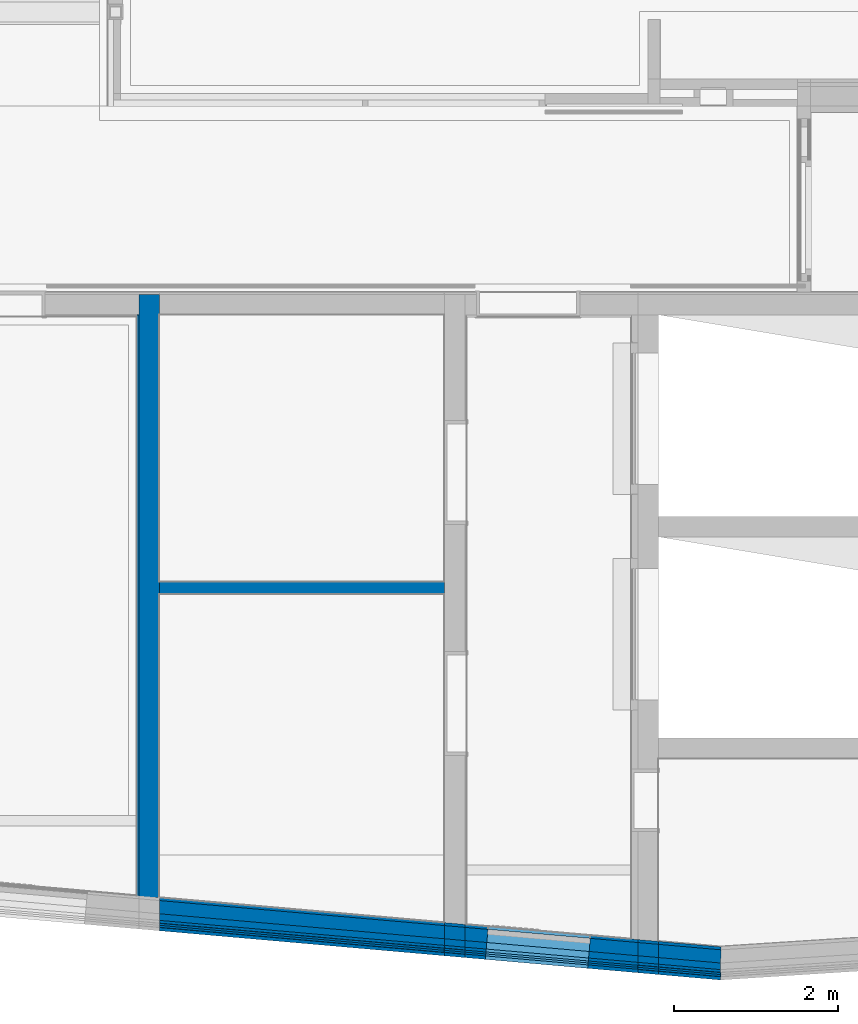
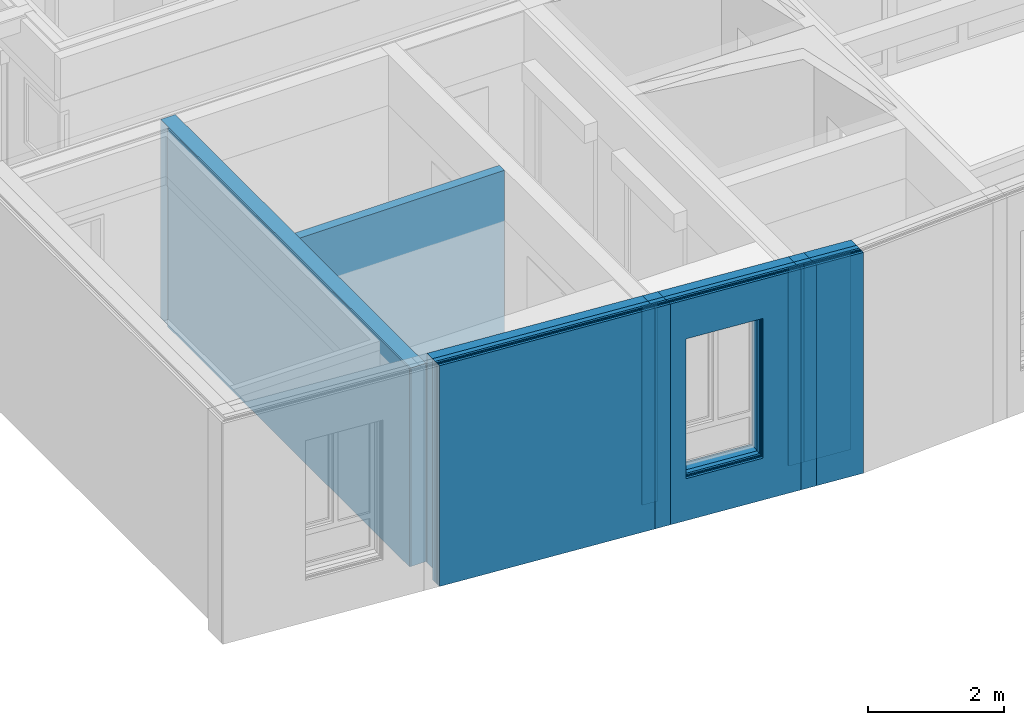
# One storey, part 20 of 222: 38 walls, 13 openings.
"""IFC4 building model written with IfcOpenShell, lengths in metres."""

from ifc_helpers import new_model, entity, si_unit, converted_unit, derived_unit, frame, frame_2d, origin, origin_with_axes, place, context, subcontext, project, spatial, polyline, rectangle, outline, extrude, material, element, save


model = new_model("IFC4")

# Units and contexts
model_context = context("Model", 3, precision=1e-05, world=origin())
body_context = subcontext(model_context, "Body", "Model", "MODEL_VIEW")
ifc_project = project(units=[si_unit("LENGTHUNIT", "METRE"), si_unit("AREAUNIT", "SQUARE_METRE"), si_unit("VOLUMEUNIT", "CUBIC_METRE"), si_unit("MASSUNIT", "GRAM", prefix="KILO"), converted_unit("PLANEANGLEUNIT", "DEGREE", entity("IfcPlaneAngleMeasure", 0.0174532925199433), si_unit("PLANEANGLEUNIT", "RADIAN"), dimensions=[0, 0, 0, 0, 0, 0, 0]), derived_unit("THERMALTRANSMITTANCEUNIT", [(si_unit("POWERUNIT", "WATT"), 1), (si_unit("THERMODYNAMICTEMPERATUREUNIT", "KELVIN"), -1), (si_unit("LENGTHUNIT", "METRE"), -2)]), derived_unit("VOLUMETRICFLOWRATEUNIT", [(si_unit("LENGTHUNIT", "METRE"), 3), (converted_unit("TIMEUNIT", "hour", entity("IfcTimeMeasure", 3600.0), si_unit("TIMEUNIT", "SECOND"), dimensions=[0, 0, 1, 0, 0, 0, 0]), -1), (si_unit("LENGTHUNIT", "METRE"), -1)])], contexts=[model_context])

# Site, building, storey
site_placement = place(None, origin())
site = spatial("IfcSite", under=ifc_project, at=site_placement, Name="Psychiatrie Neubau Wunstorf", CompositionType="ELEMENT")
building_placement = place(site_placement, origin())
building = spatial("IfcBuilding", under=site, at=building_placement, Name="Neubau H2 Stationsgebäude", CompositionType="ELEMENT")
storey_placement = place(building_placement, frame((0.0, 0.0, 3.6)))
storey = spatial("IfcBuildingStorey", under=building, at=storey_placement, Name="H2 Ebene +1", CompositionType="ELEMENT", Elevation=3.6)

# Wall, openings
ifc_material_1 = material(Name="WA-LB")
wall_1_placement = place(storey_placement, frame((47.0200048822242, -7.32418715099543, 0.0), z_axis=(0.0, 0.0, 1.0), x_axis=(-0.996173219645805, 0.0874008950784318, 0.0)))
wall_1 = element("IfcWall", 1, at=wall_1_placement, inside=storey, material=ifc_material_1, context=body_context, shape_type="SweptSolid", body=[
    extrude(outline(polyline([(-2.09276433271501, -0.2198892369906), (0.0192923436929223, -0.2198892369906), (0.016133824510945, -0.183889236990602), (-2.09592285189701, -0.183889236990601), (-2.09276433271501, -0.2198892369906)])), frame((2.09276433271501, 0.2198892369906, 0.0), z_axis=(0.0, 0.0, 1.0), x_axis=(1.0, 0.0, 0.0)), (0.0, 0.0, 1.0), 3.55),
])
opening_1_placement = place(wall_1_placement, frame((1.82678624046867, 0.195998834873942, 0.55), z_axis=(1.5631940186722e-14, -1.0, 0.0), x_axis=(0.0, 0.0, 1.0)))
element("IfcOpeningElement", 2, at=opening_1_placement, cuts=wall_1, Name="Fensteröffnung", ObjectType="Opening", context=body_context, shape_type="SweptSolid", body=[
    extrude(outline(polyline([(2.5, 1.25), (2.5, 0.0), (0.0, 0.0), (0.0, 1.25), (2.5, 1.25)])), origin_with_axes(), (0.0, 0.0, 1.0), 0.160000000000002),
])
opening_2_placement = place(wall_1_placement, frame((1.82678624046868, 0.0359988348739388, 0.55), z_axis=(8.21071605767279e-14, -1.0, 0.0), x_axis=(0.0, 0.0, 1.0)))
element("IfcOpeningElement", 3, at=opening_2_placement, cuts=wall_1, Name="Fensteröffnung", ObjectType="Opening", context=body_context, shape_type="SweptSolid", body=[
    extrude(outline(polyline([(2.5, 1.25), (2.5, 0.0), (0.0, 0.0), (0.0, 1.25), (2.5, 1.25)])), origin_with_axes(), (0.0, 0.0, 1.0), 0.0359999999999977),
])

ifc_material_2 = material(Name="WA-HD")
wall_2_placement = place(storey_placement, frame((47.0200048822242, -7.3603254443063, 0.0), z_axis=(0.0, 0.0, 1.0), x_axis=(-0.996173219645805, 0.087400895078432, 0.0)))
wall_2 = element("IfcWall", 4, at=wall_2_placement, inside=storey, material=ifc_material_2, context=body_context, shape_type="SweptSolid", body=[
    extrude(outline(polyline([(-2.08188498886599, -0.343889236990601), (0.0301716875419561, -0.343889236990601), (0.0161338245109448, -0.183889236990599), (-2.09592285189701, -0.183889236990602), (-2.08188498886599, -0.343889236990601)])), frame((2.08188498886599, 0.343889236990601, 0.0), z_axis=(0.0, 0.0, 1.0), x_axis=(1.0, 0.0, 0.0)), (0.0, 0.0, 1.0), 3.75),
])
opening_3_placement = place(wall_2_placement, frame((1.82994475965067, 0.159998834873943, 0.55), z_axis=(1.5631940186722e-14, -1.0, 0.0), x_axis=(0.0, 0.0, 1.0)))
element("IfcOpeningElement", 5, at=opening_3_placement, cuts=wall_2, Name="Fensteröffnung", ObjectType="Opening", context=body_context, shape_type="SweptSolid", body=[
    extrude(outline(polyline([(2.5, 1.25), (2.5, 0.0), (0.0, 0.0), (0.0, 1.25), (2.5, 1.25)])), origin_with_axes(), (0.0, 0.0, 1.0), 0.160000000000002),
])
opening_4_placement = place(wall_2_placement, frame((1.82994475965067, 0.239998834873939, 0.55), z_axis=(-3.41060513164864e-14, -1.0, 0.0), x_axis=(0.0, 0.0, 1.0)))
element("IfcOpeningElement", 6, at=opening_4_placement, cuts=wall_2, Name="Fensteröffnung", ObjectType="Opening", context=body_context, shape_type="SweptSolid", body=[
    extrude(outline(polyline([(2.5, 1.24999999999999), (2.5, 0.0), (0.0, 0.0), (0.0, 1.24999999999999), (2.5, 1.24999999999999)])), origin_with_axes(), (0.0, 0.0, 1.0), 0.0799999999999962),
])

ifc_material_3 = material(Name="WA-DL")
wall_3_placement = place(storey_placement, frame((47.0200048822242, -7.52094008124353, -0.2), z_axis=(0.0, 0.0, 1.0), x_axis=(-0.996173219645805, 0.0874008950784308, 0.0)))
wall_3 = element("IfcWall", 7, at=wall_3_placement, inside=storey, material=ifc_material_3, context=body_context, shape_type="SweptSolid", body=[
    extrude(outline(polyline([(-2.0889039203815, -0.263889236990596), (0.0231527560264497, -0.263889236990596), (0.0161338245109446, -0.1838892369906), (-2.09592285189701, -0.183889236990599), (-2.0889039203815, -0.263889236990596)])), frame((2.0889039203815, 0.263889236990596, 0.0), z_axis=(0.0, 0.0, 1.0), x_axis=(1.0, 0.0, 0.0)), (0.0, 0.0, 1.0), 3.95),
])
opening_5_placement = place(wall_3_placement, frame((1.84398262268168, 0.115998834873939, 0.75), z_axis=(9.47390314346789e-14, -1.0, 0.0), x_axis=(0.0, 0.0, 1.0)))
element("IfcOpeningElement", 8, at=opening_5_placement, cuts=wall_3, Name="Fensteröffnung", ObjectType="Opening", context=body_context, shape_type="SweptSolid", body=[
    extrude(outline(polyline([(2.5, 1.25), (2.5, 0.0), (0.0, 0.0), (0.0, 1.25), (2.5, 1.25)])), origin_with_axes(), (0.0, 0.0, 1.0), 0.0360000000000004),
])
opening_6_placement = place(wall_3_placement, frame((1.84398262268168, 0.0799988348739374, 0.75), z_axis=(-3.6948222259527e-14, -1.0, 0.0), x_axis=(0.0, 0.0, 1.0)))
element("IfcOpeningElement", 9, at=opening_6_placement, cuts=wall_3, Name="Fensteröffnung", ObjectType="Opening", context=body_context, shape_type="SweptSolid", body=[
    extrude(outline(polyline([(2.5, 1.24999999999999), (2.5, 0.0), (0.0, 0.0), (0.0, 1.24999999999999), (2.5, 1.24999999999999)])), origin_with_axes(), (0.0, 0.0, 1.0), 0.0799999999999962),
])

ifc_material_4 = material(Name="WA-LB")
wall_4_placement = place(storey_placement, frame((47.0200048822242, -7.60124739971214, -0.2), z_axis=(0.0, 0.0, 1.0), x_axis=(-0.996173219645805, 0.0874008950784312, 0.0)))
wall_4 = element("IfcWall", 10, at=wall_4_placement, inside=storey, material=ifc_material_4, context=body_context, shape_type="SweptSolid", body=[
    extrude(outline(polyline([(-2.09276433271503, -0.219889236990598), (0.019292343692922, -0.219889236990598), (0.0161338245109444, -0.183889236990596), (-2.09592285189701, -0.1838892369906), (-2.09276433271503, -0.219889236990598)])), frame((2.09276433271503, 0.219889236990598, 0.0), z_axis=(0.0, 0.0, 1.0), x_axis=(1.0, 0.0, 0.0)), (0.0, 0.0, 1.0), 3.95),
])
opening_7_placement = place(wall_4_placement, frame((1.85100155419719, 0.0599988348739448, 0.75), z_axis=(9.4739031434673e-14, -1.0, 0.0), x_axis=(0.0, 0.0, 1.0)))
element("IfcOpeningElement", 11, at=opening_7_placement, cuts=wall_4, Name="Fensteröffnung", ObjectType="Opening", context=body_context, shape_type="SweptSolid", body=[
    extrude(outline(polyline([(2.5, 1.24999999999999), (2.5, 0.0), (0.0, 0.0), (0.0, 1.24999999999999), (2.5, 1.24999999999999)])), origin_with_axes(), (0.0, 0.0, 1.0), 0.0240000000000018),
])
opening_8_placement = place(wall_4_placement, frame((1.85100155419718, 0.0359988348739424, 0.75), z_axis=(8.84230960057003e-14, -1.0, 0.0), x_axis=(0.0, 0.0, 1.0)))
element("IfcOpeningElement", 12, at=opening_8_placement, cuts=wall_4, Name="Fensteröffnung", ObjectType="Opening", context=body_context, shape_type="SweptSolid", body=[
    extrude(outline(polyline([(2.5, 1.25), (2.5, 0.0), (0.0, 0.0), (0.0, 1.25), (2.5, 1.25)])), origin_with_axes(), (0.0, 0.0, 1.0), 0.0360000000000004),
])

ifc_material_5 = material(Name="WA-KL")
wall_5_placement = place(storey_placement, frame((47.0200048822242, -7.63738569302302, -0.2), z_axis=(0.0, 0.0, 1.0), x_axis=(-0.996173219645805, 0.0874008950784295, 0.0)))
wall_5 = element("IfcWall", 13, at=wall_5_placement, inside=storey, material=ifc_material_5, context=body_context, shape_type="SweptSolid", body=[
    extrude(outline(polyline([(-2.09381717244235, -0.207889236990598), (0.0182395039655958, -0.207889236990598), (0.0161338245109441, -0.183889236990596), (-2.09592285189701, -0.183889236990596), (-2.09381717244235, -0.207889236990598)])), frame((2.09381717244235, 0.207889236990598, 0.0), z_axis=(0.0, 0.0, 1.0), x_axis=(1.0, 0.0, 0.0)), (0.0, 0.0, 1.0), 3.95),
])
opening_9_placement = place(wall_5_placement, frame((1.85416007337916, 0.0479988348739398, 0.75), z_axis=(7.57912251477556e-14, -1.0, 0.0), x_axis=(0.0, 0.0, 1.0)))
element("IfcOpeningElement", 14, at=opening_9_placement, cuts=wall_5, Name="Fensteröffnung", ObjectType="Opening", context=body_context, shape_type="SweptSolid", body=[
    extrude(outline(polyline([(2.5, 1.24999999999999), (2.5, 0.0), (0.0, 0.0), (0.0, 1.24999999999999), (2.5, 1.24999999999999)])), origin_with_axes(), (0.0, 0.0, 1.0), 0.0239999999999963),
])
opening_10_placement = place(wall_5_placement, frame((1.85416007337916, 0.0239988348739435, 0.75), z_axis=(9.47390314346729e-14, -1.0, 0.0), x_axis=(0.0, 0.0, 1.0)))
element("IfcOpeningElement", 15, at=opening_10_placement, cuts=wall_5, Name="Fensteröffnung", ObjectType="Opening", context=body_context, shape_type="SweptSolid", body=[
    extrude(outline(polyline([(2.5, 1.24999999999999), (2.5, 0.0), (0.0, 0.0), (0.0, 1.24999999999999), (2.5, 1.24999999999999)])), origin_with_axes(), (0.0, 0.0, 1.0), 0.0240000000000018),
])

ifc_material_6 = material(Name="WA-TL")
wall_6_placement = place(storey_placement, frame((47.0200048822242, -7.6614778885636, -0.2), z_axis=(0.0, 0.0, 1.0), x_axis=(-0.996173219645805, 0.0874008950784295, 0.0)))
wall_6 = element("IfcWall", 16, at=wall_6_placement, inside=storey, material=ifc_material_6, context=body_context, shape_type="SweptSolid", body=[
    extrude(outline(polyline([(-2.09381717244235, -0.207889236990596), (0.0182395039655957, -0.207889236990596), (0.0161338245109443, -0.183889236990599), (-2.09592285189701, -0.183889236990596), (-2.09381717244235, -0.207889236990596)])), frame((2.09381717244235, 0.207889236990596, 0.0), z_axis=(0.0, 0.0, 1.0), x_axis=(1.0, 0.0, 0.0)), (0.0, 0.0, 1.0), 3.95),
])
opening_11_placement = place(wall_6_placement, frame((1.85626575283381, 0.0659988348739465, 0.75), z_axis=(1.62409768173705e-14, -1.0, 0.0), x_axis=(0.0, 0.0, 1.0)))
element("IfcOpeningElement", 17, at=opening_11_placement, cuts=wall_6, Name="Fensteröffnung", ObjectType="Opening", context=body_context, shape_type="SweptSolid", body=[
    extrude(outline(polyline([(2.5, 1.24999999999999), (2.5, 0.0), (0.0, 0.0), (0.0, 1.24999999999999), (2.5, 1.24999999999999)])), origin_with_axes(), (0.0, 0.0, 1.0), 0.0420000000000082),
])
opening_12_placement = place(wall_6_placement, frame((1.85626575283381, 0.0239988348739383, 0.75), z_axis=(8.52651282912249e-14, -1.0, 0.0), x_axis=(0.0, 0.0, 1.0)))
element("IfcOpeningElement", 18, at=opening_12_placement, cuts=wall_6, Name="Fensteröffnung", ObjectType="Opening", context=body_context, shape_type="SweptSolid", body=[
    extrude(outline(polyline([(2.5, 1.24999999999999), (2.5, 0.0), (0.0, 0.0), (0.0, 1.24999999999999), (2.5, 1.24999999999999)])), origin_with_axes(), (0.0, 0.0, 1.0), 0.0239999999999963),
])

# Wall, opening
ifc_material_7 = material(Name="WA-HS")
wall_7_placement = place(storey_placement, frame((47.0200048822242, -7.68557008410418, -0.2), z_axis=(0.0, 0.0, 1.0), x_axis=(-0.996173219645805, 0.0874008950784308, 0.0)))
wall_7 = element("IfcWall", 19, at=wall_7_placement, inside=storey, material=ifc_material_7, context=body_context, shape_type="SweptSolid", body=[
    extrude(outline(polyline([(-2.09223791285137, -0.225889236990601), (0.019818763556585, -0.225889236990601), (0.016133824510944, -0.183889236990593), (-2.09592285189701, -0.183889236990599), (-2.09223791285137, -0.225889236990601)])), frame((2.09223791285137, 0.225889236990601, 0.0), z_axis=(0.0, 0.0, 1.0), x_axis=(1.0, 0.0, 0.0)), (0.0, 0.0, 1.0), 3.95),
])
opening_13_placement = place(wall_7_placement, frame((1.85837143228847, 0.0419988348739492, 0.75), z_axis=(2.16546357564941e-14, -1.0, 0.0), x_axis=(0.0, 0.0, 1.0)))
element("IfcOpeningElement", 20, at=opening_13_placement, cuts=wall_7, Name="Fensteröffnung", ObjectType="Opening", context=body_context, shape_type="SweptSolid", body=[
    extrude(outline(polyline([(2.5, 1.24999999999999), (2.5, 0.0), (0.0, 0.0), (0.0, 1.24999999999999), (2.5, 1.24999999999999)])), origin_with_axes(), (0.0, 0.0, 1.0), 0.0420000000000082),
])

# Walls
ifc_material_8 = material(Name="WA-LB")
wall_8_placement = place(storey_placement, frame((48.0306428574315, -7.41285713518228, 0.0), z_axis=(0.0, 0.0, 1.0), x_axis=(-0.996173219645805, 0.0874008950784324, 0.0)))
element("IfcWall", 21, at=wall_8_placement, inside=storey, material=ifc_material_8, context=body_context, shape_type="SweptSolid", body=[
    extrude(outline(polyline([(-0.754571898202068, -0.102443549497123), (0.00898805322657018, -0.102443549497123), (0.0058295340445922, -0.066443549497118), (-0.757306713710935, -0.0664435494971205), (-0.754571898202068, -0.102443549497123)])), frame((0.754571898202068, 0.102443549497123, 0.0), z_axis=(0.0, 0.0, 1.0), x_axis=(1.0, 0.0, 0.0)), (0.0, 0.0, 1.0), 3.55),
])
ifc_material_9 = material(Name="WA-HD")
wall_9_placement = place(storey_placement, frame((48.0302207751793, -7.44895839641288, 0.0), z_axis=(0.0, 0.0, 1.0), x_axis=(-0.996173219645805, 0.0874008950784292, 0.0)))
element("IfcWall", 22, at=wall_9_placement, inside=storey, material=ifc_material_9, context=body_context, shape_type="SweptSolid", body=[
    extrude(outline(polyline([(-0.743283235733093, -0.226279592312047), (0.019853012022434, -0.226279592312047), (0.00581514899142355, -0.066279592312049), (-0.755437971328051, -0.0662795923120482), (-0.743283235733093, -0.226279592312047)])), frame((0.743283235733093, 0.226279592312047, 0.0), z_axis=(0.0, 0.0, 1.0), x_axis=(1.0, 0.0, 0.0)), (0.0, 0.0, 1.0), 3.75),
])
ifc_material_10 = material(Name="WA-DL")
wall_10_placement = place(storey_placement, frame((48.0283448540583, -7.60940844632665, -0.2), z_axis=(0.0, 0.0, 1.0), x_axis=(-0.996173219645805, 0.0874008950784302, 0.0)))
element("IfcWall", 23, at=wall_10_placement, inside=storey, material=ifc_material_10, context=body_context, shape_type="SweptSolid", body=[
    extrude(outline(polyline([(-0.74842623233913, -0.14619761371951), (0.0128268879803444, -0.14619761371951), (0.00580795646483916, -0.0661976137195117), (-0.754503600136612, -0.0661976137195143), (-0.74842623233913, -0.14619761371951)])), frame((0.74842623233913, 0.14619761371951, 0.0), z_axis=(0.0, 0.0, 1.0), x_axis=(1.0, 0.0, 0.0)), (0.0, 0.0, 1.0), 3.95),
])
ifc_material_11 = material(Name="WA-LB")
wall_11_placement = place(storey_placement, frame((48.0274068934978, -7.68963347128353, -0.2), z_axis=(0.0, 0.0, 1.0), x_axis=(-0.996173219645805, 0.0874008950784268, 0.0)))
element("IfcWall", 24, at=wall_11_placement, inside=storey, material=ifc_material_11, context=body_context, shape_type="SweptSolid", body=[
    extrude(outline(polyline([(-0.751348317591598, -0.10216072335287), (0.00896323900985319, -0.10216072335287), (0.00580471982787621, -0.0661607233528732), (-0.754083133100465, -0.0661607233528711), (-0.751348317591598, -0.10216072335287)])), frame((0.751348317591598, 0.10216072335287, 0.0), z_axis=(0.0, 0.0, 1.0), x_axis=(1.0, 0.0, 0.0)), (0.0, 0.0, 1.0), 3.95),
])
ifc_material_12 = material(Name="WA-KL")
wall_12_placement = place(storey_placement, frame((48.0269848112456, -7.72573473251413, -0.2), z_axis=(0.0, 0.0, 1.0), x_axis=(-0.996173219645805, 0.0874008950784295, 0.0)))
element("IfcWall", 25, at=wall_12_placement, inside=storey, material=ifc_material_12, context=body_context, shape_type="SweptSolid", body=[
    extrude(outline(polyline([(-0.751979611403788, -0.0901361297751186), (0.00790824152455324, -0.0901361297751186), (0.00580256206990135, -0.0661361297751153), (-0.753802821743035, -0.066136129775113), (-0.751979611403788, -0.0901361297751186)])), frame((0.751979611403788, 0.0901361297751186, 0.0), z_axis=(0.0, 0.0, 1.0), x_axis=(1.0, 0.0, 0.0)), (0.0, 0.0, 1.0), 3.95),
])
ifc_material_13 = material(Name="WA-TL")
wall_13_placement = place(storey_placement, frame((48.0267034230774, -7.7498022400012, -0.2), z_axis=(0.0, 0.0, 1.0), x_axis=(-0.996173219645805, 0.0874008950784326, 0.0)))
element("IfcWall", 26, at=wall_13_placement, inside=storey, material=ifc_material_13, context=body_context, shape_type="SweptSolid", body=[
    extrude(outline(polyline([(-0.751699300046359, -0.0901115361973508), (0.0079060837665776, -0.0901115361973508), (0.00580040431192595, -0.0661115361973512), (-0.753522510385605, -0.0661115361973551), (-0.751699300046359, -0.0901115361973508)])), frame((0.751699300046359, 0.0901115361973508, 0.0), z_axis=(0.0, 0.0, 1.0), x_axis=(1.0, 0.0, 0.0)), (0.0, 0.0, 1.0), 3.95),
])
ifc_material_14 = material(Name="WA-HS")
wall_14_placement = place(storey_placement, frame((48.0264220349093, -7.77386974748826, -0.2), z_axis=(0.0, 0.0, 1.0), x_axis=(-0.996173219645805, 0.0874008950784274, 0.0)))
element("IfcWall", 27, at=wall_14_placement, inside=storey, material=ifc_material_14, context=body_context, shape_type="SweptSolid", body=[
    extrude(outline(polyline([(-0.749841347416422, -0.108068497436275), (0.00948156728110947, -0.108068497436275), (0.00579662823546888, -0.0660684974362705), (-0.753031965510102, -0.0660684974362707), (-0.749841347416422, -0.108068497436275)])), frame((0.749841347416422, 0.108068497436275, 0.0), z_axis=(0.0, 0.0, 1.0), x_axis=(1.0, 0.0, 0.0)), (0.0, 0.0, 1.0), 3.95),
])
ifc_material_15 = material(Name="WA-LB")
wall_15_placement = place(storey_placement, frame((47.2700048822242, -7.34612131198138, 0.0), z_axis=(0.0, 0.0, 1.0), x_axis=(-0.996173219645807, 0.0874008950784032, 0.0)))
element("IfcWall", 28, at=wall_15_placement, inside=storey, material=ifc_material_15, Name="2x Gipsfaserplatte", context=body_context, shape_type="SweptSolid", body=[
    extrude(outline(polyline([(-0.245884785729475, -0.0578502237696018), (0.00507558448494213, -0.0578502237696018), (0.00191706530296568, -0.0218502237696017), (-0.249043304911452, -0.0218502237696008), (-0.245884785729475, -0.0578502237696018)])), frame((0.245884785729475, 0.0578502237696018, 0.0), z_axis=(0.0, 0.0, 1.0), x_axis=(1.0, 0.0, 0.0)), (0.0, 0.0, 1.0), 3.55),
])
ifc_material_16 = material(Name="WA-HD")
wall_16_placement = place(storey_placement, frame((47.2700048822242, -7.38225960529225, 0.0), z_axis=(0.0, 0.0, 1.0), x_axis=(-0.996173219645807, 0.0874008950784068, 0.0)))
element("IfcWall", 29, at=wall_16_placement, inside=storey, material=ifc_material_16, Name="Holzständer + Zwischendämmung", context=body_context, shape_type="SweptSolid", body=[
    extrude(outline(polyline([(-0.235005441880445, -0.181850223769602), (0.0159549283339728, -0.181850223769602), (0.00191706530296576, -0.0218502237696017), (-0.249043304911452, -0.0218502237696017), (-0.235005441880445, -0.181850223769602)])), frame((0.235005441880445, 0.181850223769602, 0.0), z_axis=(0.0, 0.0, 1.0), x_axis=(1.0, 0.0, 0.0)), (0.0, 0.0, 1.0), 3.75),
])
ifc_material_17 = material(Name="WA-DL")
wall_17_placement = place(storey_placement, frame((47.2700048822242, -7.54287424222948, -0.2), z_axis=(0.0, 0.0, 1.0), x_axis=(-0.996173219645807, 0.0874008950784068, 0.0)))
element("IfcWall", 30, at=wall_17_placement, inside=storey, material=ifc_material_17, Name="Staffel + Zwischendämmung", context=body_context, shape_type="SweptSolid", body=[
    extrude(outline(polyline([(-0.242024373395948, -0.101850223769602), (0.00893599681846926, -0.101850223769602), (0.00191706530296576, -0.0218502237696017), (-0.249043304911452, -0.0218502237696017), (-0.242024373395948, -0.101850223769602)])), frame((0.242024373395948, 0.101850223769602, 0.0), z_axis=(0.0, 0.0, 1.0), x_axis=(1.0, 0.0, 0.0)), (0.0, 0.0, 1.0), 3.95),
])
ifc_material_18 = material(Name="WA-LB")
wall_18_placement = place(storey_placement, frame((47.2700048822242, -7.62318156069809, -0.2), z_axis=(0.0, 0.0, 1.0), x_axis=(-0.996173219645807, 0.0874008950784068, 0.0)))
element("IfcWall", 31, at=wall_18_placement, inside=storey, material=ifc_material_18, context=body_context, shape_type="SweptSolid", body=[
    extrude(outline(polyline([(-0.245884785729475, -0.0578502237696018), (0.00507558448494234, -0.0578502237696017), (0.00191706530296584, -0.0218502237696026), (-0.249043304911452, -0.0218502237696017), (-0.245884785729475, -0.0578502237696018)])), frame((0.245884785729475, 0.0578502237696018, 0.0), z_axis=(0.0, 0.0, 1.0), x_axis=(1.0, 0.0, 0.0)), (0.0, 0.0, 1.0), 3.95),
])
ifc_material_19 = material(Name="WA-KL")
wall_19_placement = place(storey_placement, frame((47.2700048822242, -7.65931985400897, -0.2), z_axis=(0.0, 0.0, 1.0), x_axis=(-0.996173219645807, 0.0874008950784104, 0.0)))
element("IfcWall", 32, at=wall_19_placement, inside=storey, material=ifc_material_19, Name="Konterlattung", context=body_context, shape_type="SweptSolid", body=[
    extrude(outline(polyline([(-0.246937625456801, -0.0458502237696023), (0.00402274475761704, -0.0458502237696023), (0.00191706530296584, -0.0218502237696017), (-0.249043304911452, -0.0218502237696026), (-0.246937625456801, -0.0458502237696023)])), frame((0.246937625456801, 0.0458502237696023, 0.0), z_axis=(0.0, 0.0, 1.0), x_axis=(1.0, 0.0, 0.0)), (0.0, 0.0, 1.0), 3.95),
])
ifc_material_20 = material(Name="WA-TL")
wall_20_placement = place(storey_placement, frame((47.2700048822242, -7.68341204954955, -0.2), z_axis=(0.0, 0.0, 1.0), x_axis=(-0.996173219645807, 0.0874008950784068, 0.0)))
element("IfcWall", 33, at=wall_20_placement, inside=storey, material=ifc_material_20, Name="Traglattung", context=body_context, shape_type="SweptSolid", body=[
    extrude(outline(polyline([(-0.246937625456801, -0.0458502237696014), (0.00402274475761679, -0.0458502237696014), (0.00191706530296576, -0.0218502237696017), (-0.249043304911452, -0.0218502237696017), (-0.246937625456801, -0.0458502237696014)])), frame((0.246937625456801, 0.0458502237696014, 0.0), z_axis=(0.0, 0.0, 1.0), x_axis=(1.0, 0.0, 0.0)), (0.0, 0.0, 1.0), 3.95),
])
ifc_material_21 = material(Name="WA-HS")
wall_21_placement = place(storey_placement, frame((47.2700048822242, -7.70750424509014, -0.2), z_axis=(0.0, 0.0, 1.0), x_axis=(-0.996173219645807, 0.0874008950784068, 0.0)))
element("IfcWall", 34, at=wall_21_placement, inside=storey, material=ifc_material_21, Name="Holzschindel", context=body_context, shape_type="SweptSolid", body=[
    extrude(outline(polyline([(-0.245358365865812, -0.0638502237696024), (0.00560200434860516, -0.0638502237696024), (0.00191706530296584, -0.0218502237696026), (-0.249043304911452, -0.0218502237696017), (-0.245358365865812, -0.0638502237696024)])), frame((0.245358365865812, 0.0638502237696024, 0.0), z_axis=(0.0, 0.0, 1.0), x_axis=(1.0, 0.0, 0.0)), (0.0, 0.0, 1.0), 3.95),
])
ifc_material_22 = material(Name="WA-LB")
wall_22_placement = place(storey_placement, frame((44.9160305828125, -7.13959150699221, 0.0), z_axis=(0.0, 0.0, 1.0), x_axis=(-0.996173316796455, 0.0873997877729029, 0.0)))
element("IfcWall", 35, at=wall_22_placement, inside=storey, material=ifc_material_22, Name="2x Gipsfaserplatte", context=body_context, shape_type="SweptSolid", body=[
    extrude(outline(polyline([(-0.245884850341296, -0.0578499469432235), (0.00507549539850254, -0.0578499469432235), (0.00191701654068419, -0.0218499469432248), (-0.249043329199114, -0.0218499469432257), (-0.245884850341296, -0.0578499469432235)])), frame((0.245884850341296, 0.0578499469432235, 0.0), z_axis=(0.0, 0.0, 1.0), x_axis=(1.0, 0.0, 0.0)), (0.0, 0.0, 1.0), 3.55),
])
ifc_material_23 = material(Name="WA-HD")
wall_23_placement = place(storey_placement, frame((44.9160305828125, -7.17572979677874, 0.0), z_axis=(0.0, 0.0, 1.0), x_axis=(-0.996173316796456, 0.0873997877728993, 0.0)))
element("IfcWall", 36, at=wall_23_placement, inside=storey, material=ifc_material_23, Name="Holzständer + Zwischendämmung", context=body_context, shape_type="SweptSolid", body=[
    extrude(outline(polyline([(-0.235005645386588, -0.181849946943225), (0.0159547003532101, -0.181849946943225), (0.00191701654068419, -0.0218499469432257), (-0.249043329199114, -0.0218499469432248), (-0.235005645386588, -0.181849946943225)])), frame((0.235005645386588, 0.181849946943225, 0.0), z_axis=(0.0, 0.0, 1.0), x_axis=(1.0, 0.0, 0.0)), (0.0, 0.0, 1.0), 3.75),
])
ifc_material_24 = material(Name="WA-DL")
wall_24_placement = place(storey_placement, frame((44.9160305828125, -7.33634441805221, -0.2), z_axis=(0.0, 0.0, 1.0), x_axis=(-0.996173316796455, 0.0873997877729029, 0.0)))
element("IfcWall", 37, at=wall_24_placement, inside=storey, material=ifc_material_24, Name="Staffel + Zwischendämmung", context=body_context, shape_type="SweptSolid", body=[
    extrude(outline(polyline([(-0.242024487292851, -0.101849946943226), (0.00893585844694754, -0.101849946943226), (0.00191701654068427, -0.0218499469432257), (-0.249043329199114, -0.0218499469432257), (-0.242024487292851, -0.101849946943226)])), frame((0.242024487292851, 0.101849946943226, 0.0), z_axis=(0.0, 0.0, 1.0), x_axis=(1.0, 0.0, 0.0)), (0.0, 0.0, 1.0), 3.95),
])
ifc_material_25 = material(Name="WA-LB")
wall_25_placement = place(storey_placement, frame((44.9160305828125, -7.41665172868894, -0.2), z_axis=(0.0, 0.0, 1.0), x_axis=(-0.996173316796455, 0.0873997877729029, 0.0)))
element("IfcWall", 38, at=wall_25_placement, inside=storey, material=ifc_material_25, context=body_context, shape_type="SweptSolid", body=[
    extrude(outline(polyline([(-0.245884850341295, -0.0578499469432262), (0.00507549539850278, -0.0578499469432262), (0.00191701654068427, -0.0218499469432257), (-0.249043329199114, -0.0218499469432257), (-0.245884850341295, -0.0578499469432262)])), frame((0.245884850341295, 0.0578499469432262, 0.0), z_axis=(0.0, 0.0, 1.0), x_axis=(1.0, 0.0, 0.0)), (0.0, 0.0, 1.0), 3.95),
])
ifc_material_26 = material(Name="WA-KL")
wall_26_placement = place(storey_placement, frame((44.9160305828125, -7.45279001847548, -0.2), z_axis=(0.0, 0.0, 1.0), x_axis=(-0.996173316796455, 0.0873997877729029, 0.0)))
element("IfcWall", 39, at=wall_26_placement, inside=storey, material=ifc_material_26, Name="Konterlattung", context=body_context, shape_type="SweptSolid", body=[
    extrude(outline(polyline([(-0.246937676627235, -0.0458499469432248), (0.00402266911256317, -0.0458499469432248), (0.00191701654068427, -0.0218499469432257), (-0.249043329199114, -0.0218499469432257), (-0.246937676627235, -0.0458499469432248)])), frame((0.246937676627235, 0.0458499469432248, 0.0), z_axis=(0.0, 0.0, 1.0), x_axis=(1.0, 0.0, 0.0)), (0.0, 0.0, 1.0), 3.95),
])
ifc_material_27 = material(Name="WA-TL")
wall_27_placement = place(storey_placement, frame((44.9160305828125, -7.4768822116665, -0.2), z_axis=(0.0, 0.0, 1.0), x_axis=(-0.996173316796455, 0.0873997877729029, 0.0)))
element("IfcWall", 40, at=wall_27_placement, inside=storey, material=ifc_material_27, Name="Traglattung", context=body_context, shape_type="SweptSolid", body=[
    extrude(outline(polyline([(-0.246937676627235, -0.0458499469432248), (0.00402266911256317, -0.0458499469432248), (0.00191701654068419, -0.0218499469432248), (-0.249043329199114, -0.0218499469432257), (-0.246937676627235, -0.0458499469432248)])), frame((0.246937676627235, 0.0458499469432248, 0.0), z_axis=(0.0, 0.0, 1.0), x_axis=(1.0, 0.0, 0.0)), (0.0, 0.0, 1.0), 3.95),
])
ifc_material_28 = material(Name="WA-HS")
wall_28_placement = place(storey_placement, frame((44.9160305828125, -7.50097440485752, -0.2), z_axis=(0.0, 0.0, 1.0), x_axis=(-0.996173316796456, 0.0873997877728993, 0.0)))
element("IfcWall", 41, at=wall_28_placement, inside=storey, material=ifc_material_28, Name="Holzschindel", context=body_context, shape_type="SweptSolid", body=[
    extrude(outline(polyline([(-0.245358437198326, -0.063849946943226), (0.00560190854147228, -0.063849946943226), (0.00191701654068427, -0.0218499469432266), (-0.249043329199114, -0.0218499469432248), (-0.245358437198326, -0.063849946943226)])), frame((0.245358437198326, 0.063849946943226, 0.0), z_axis=(0.0, 0.0, 1.0), x_axis=(1.0, 0.0, 0.0)), (0.0, 0.0, 1.0), 3.95),
])
ifc_material_29 = material(Name="WA-LB")
wall_29_placement = place(storey_placement, frame((44.6660305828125, -7.11765762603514, 0.0), z_axis=(0.0, 0.0, 1.0), x_axis=(-0.996173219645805, 0.0874008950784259, 0.0)))
element("IfcWall", 42, at=wall_29_placement, inside=storey, material=ifc_material_29, context=body_context, shape_type="SweptSolid", body=[
    extrude(outline(polyline([(-3.44960832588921, -0.33893417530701), (0.029736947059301, -0.33893417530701), (0.0265784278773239, -0.302934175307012), (-3.45276684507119, -0.302934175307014), (-3.44960832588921, -0.33893417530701)])), frame((3.44960832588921, 0.33893417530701, 0.0), z_axis=(0.0, 0.0, 1.0), x_axis=(1.0, 0.0, 0.0)), (0.0, 0.0, 1.0), 3.55),
])
ifc_material_30 = material(Name="WA-HD")
wall_30_placement = place(storey_placement, frame((44.6660305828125, -7.15379591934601, 0.0), z_axis=(0.0, 0.0, 1.0), x_axis=(-0.996173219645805, 0.0874008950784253, 0.0)))
element("IfcWall", 43, at=wall_30_placement, inside=storey, material=ifc_material_30, context=body_context, shape_type="SweptSolid", body=[
    extrude(outline(polyline([(-3.43872898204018, -0.462934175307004), (0.0406162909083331, -0.462934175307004), (0.0265784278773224, -0.302934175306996), (-3.45276684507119, -0.302934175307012), (-3.43872898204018, -0.462934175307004)])), frame((3.43872898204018, 0.462934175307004, 0.0), z_axis=(0.0, 0.0, 1.0), x_axis=(1.0, 0.0, 0.0)), (0.0, 0.0, 1.0), 3.75),
])
ifc_material_31 = material(Name="WA-DL")
wall_31_placement = place(storey_placement, frame((44.6660305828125, -7.31441055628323, -0.2), z_axis=(0.0, 0.0, 1.0), x_axis=(-0.996173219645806, 0.0874008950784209, 0.0)))
element("IfcWall", 44, at=wall_31_placement, inside=storey, material=ifc_material_31, context=body_context, shape_type="SweptSolid", body=[
    extrude(outline(polyline([(-3.44574791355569, -0.382934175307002), (0.0335973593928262, -0.382934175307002), (0.0265784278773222, -0.302934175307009), (-3.45276684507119, -0.302934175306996), (-3.44574791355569, -0.382934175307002)])), frame((3.44574791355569, 0.382934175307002, 0.0), z_axis=(0.0, 0.0, 1.0), x_axis=(1.0, 0.0, 0.0)), (0.0, 0.0, 1.0), 3.95),
])
ifc_material_32 = material(Name="WA-LB")
wall_32_placement = place(storey_placement, frame((44.6660305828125, -7.39471787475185, -0.2), z_axis=(0.0, 0.0, 1.0), x_axis=(-0.996173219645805, 0.0874008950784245, 0.0)))
element("IfcWall", 45, at=wall_32_placement, inside=storey, material=ifc_material_32, context=body_context, shape_type="SweptSolid", body=[
    extrude(outline(polyline([(-3.44960832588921, -0.338934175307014), (0.0297369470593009, -0.338934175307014), (0.0265784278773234, -0.302934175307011), (-3.45276684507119, -0.302934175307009), (-3.44960832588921, -0.338934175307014)])), frame((3.44960832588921, 0.338934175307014, 0.0), z_axis=(0.0, 0.0, 1.0), x_axis=(1.0, 0.0, 0.0)), (0.0, 0.0, 1.0), 3.95),
])
ifc_material_33 = material(Name="WA-KL")
wall_33_placement = place(storey_placement, frame((44.6660305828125, -7.43085616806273, -0.2), z_axis=(0.0, 0.0, 1.0), x_axis=(-0.996173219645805, 0.0874008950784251, 0.0)))
element("IfcWall", 46, at=wall_33_placement, inside=storey, material=ifc_material_33, context=body_context, shape_type="SweptSolid", body=[
    extrude(outline(polyline([(-3.45066116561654, -0.326934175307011), (0.0286841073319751, -0.326934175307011), (0.0265784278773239, -0.302934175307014), (-3.45276684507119, -0.302934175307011), (-3.45066116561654, -0.326934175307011)])), frame((3.45066116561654, 0.326934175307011, 0.0), z_axis=(0.0, 0.0, 1.0), x_axis=(1.0, 0.0, 0.0)), (0.0, 0.0, 1.0), 3.95),
])
ifc_material_34 = material(Name="WA-TL")
wall_34_placement = place(storey_placement, frame((44.6660305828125, -7.45494836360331, -0.2), z_axis=(0.0, 0.0, 1.0), x_axis=(-0.996173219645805, 0.0874008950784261, 0.0)))
element("IfcWall", 47, at=wall_34_placement, inside=storey, material=ifc_material_34, context=body_context, shape_type="SweptSolid", body=[
    extrude(outline(polyline([(-3.45066116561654, -0.326934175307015), (0.0286841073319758, -0.326934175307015), (0.026578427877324, -0.302934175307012), (-3.45276684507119, -0.302934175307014), (-3.45066116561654, -0.326934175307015)])), frame((3.45066116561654, 0.326934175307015, 0.0), z_axis=(0.0, 0.0, 1.0), x_axis=(1.0, 0.0, 0.0)), (0.0, 0.0, 1.0), 3.95),
])
ifc_material_35 = material(Name="WA-HS")
wall_35_placement = place(storey_placement, frame((44.6660305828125, -7.4790405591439, -0.2), z_axis=(0.0, 0.0, 1.0), x_axis=(-0.996173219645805, 0.0874008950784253, 0.0)))
element("IfcWall", 48, at=wall_35_placement, inside=storey, material=ifc_material_35, context=body_context, shape_type="SweptSolid", body=[
    extrude(outline(polyline([(-3.44908190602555, -0.344934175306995), (0.0302633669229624, -0.344934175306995), (0.0265784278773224, -0.302934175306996), (-3.45276684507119, -0.302934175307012), (-3.44908190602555, -0.344934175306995)])), frame((3.44908190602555, 0.344934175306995, 0.0), z_axis=(0.0, 0.0, 1.0), x_axis=(1.0, 0.0, 0.0)), (0.0, 0.0, 1.0), 3.95),
])
ifc_material_36 = material(Name="WI-LB")
wall_36_placement = place(storey_placement, frame((41.2, -3.1225003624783, 0.0)))
element("IfcWall", 49, at=wall_36_placement, inside=storey, material=ifc_material_36, context=body_context, shape_type="SweptSolid", body=[
    extrude(rectangle(XDim=3.46600488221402, YDim=0.15, at=frame_2d((1.73300244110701, 0.075), x_axis=(1.0, 0.0))), origin_with_axes(), (0.0, 0.0, 1.0), 3.55),
])
ifc_material_37 = material(Name="WI-STB")
wall_37_placement = place(storey_placement, frame((41.2, -6.81355973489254, 0.0), z_axis=(0.0, 0.0, 1.0), x_axis=(0.0, 1.0, 0.0)))
element("IfcWall", 50, at=wall_37_placement, inside=storey, material=ifc_material_37, context=body_context, shape_type="SweptSolid", body=[
    extrude(rectangle(XDim=7.33855973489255, YDim=0.25, at=frame_2d((3.66927986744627, 0.125), x_axis=(1.0, 0.0))), origin_with_axes(), (0.0, 0.0, 1.0), 3.55),
])
ifc_material_38 = material(Name="WI-LB")
wall_38_placement = place(storey_placement, frame((40.95, -6.81355973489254, 0.0), z_axis=(0.0, 0.0, 1.0), x_axis=(0.0, 1.0, 0.0)))
element("IfcWall", 51, at=wall_38_placement, inside=storey, material=ifc_material_38, context=body_context, shape_type="SweptSolid", body=[
    extrude(rectangle(XDim=7.08855973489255, YDim=0.024, at=frame_2d((3.54427986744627, 0.012), x_axis=(1.0, 0.0))), origin_with_axes(), (0.0, 0.0, 1.0), 3.55),
])

save(model, "model.ifc")
